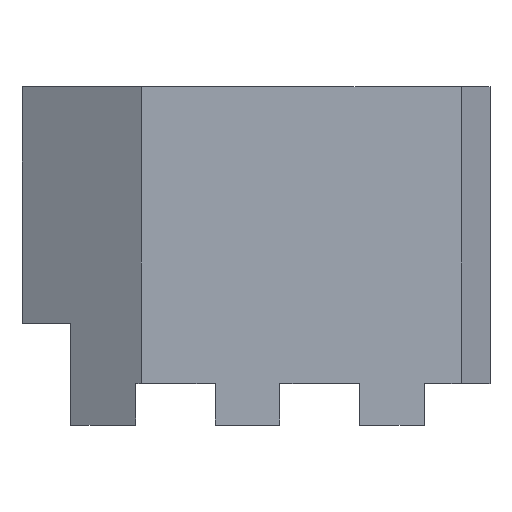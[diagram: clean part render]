
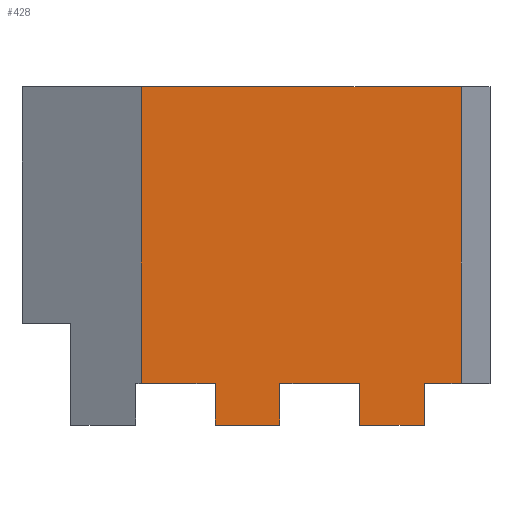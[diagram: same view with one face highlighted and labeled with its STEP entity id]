
A CAD part, top view. The second image highlights one B-rep face of the part: STEP entity #428.
In plain terms, the highlighted planar face has unit normal (0, 0, 1).
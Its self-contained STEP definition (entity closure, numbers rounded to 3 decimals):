
#14 = DIRECTION ( 'NONE',  ( 0., 1., 0. ) ) ;
#28 = EDGE_CURVE ( 'NONE', #400, #725, #74, .T. ) ;
#31 = VERTEX_POINT ( 'NONE', #585 ) ;
#46 = ORIENTED_EDGE ( 'NONE', *, *, #477, .T. ) ;
#49 = CARTESIAN_POINT ( 'NONE',  ( 5., 4.2, 9. ) ) ;
#55 = CARTESIAN_POINT ( 'NONE',  ( 18.9, 4.2, 9. ) ) ;
#61 = VECTOR ( 'NONE', #14, 1000. ) ;
#67 = EDGE_CURVE ( 'NONE', #314, #399, #572, .T. ) ;
#70 = DIRECTION ( 'NONE',  ( 0., 1., 0. ) ) ;
#74 = LINE ( 'NONE', #417, #264 ) ;
#86 = VERTEX_POINT ( 'NONE', #208 ) ;
#87 = VECTOR ( 'NONE', #589, 1000. ) ;
#91 = CARTESIAN_POINT ( 'NONE',  ( 0., 0., 9. ) ) ;
#97 = ORIENTED_EDGE ( 'NONE', *, *, #369, .F. ) ;
#100 = ORIENTED_EDGE ( 'NONE', *, *, #561, .F. ) ;
#101 = CARTESIAN_POINT ( 'NONE',  ( 33.4, 4.2, 9. ) ) ;
#103 = CARTESIAN_POINT ( 'NONE',  ( 18.9, 0., 9. ) ) ;
#108 = ORIENTED_EDGE ( 'NONE', *, *, #657, .F. ) ;
#109 = LINE ( 'NONE', #55, #514 ) ;
#126 = FACE_OUTER_BOUND ( 'NONE', #243, .T. ) ;
#132 = VERTEX_POINT ( 'NONE', #593 ) ;
#133 = CARTESIAN_POINT ( 'NONE',  ( 4.4, 4.2, 9. ) ) ;
#134 = ORIENTED_EDGE ( 'NONE', *, *, #280, .F. ) ;
#135 = ORIENTED_EDGE ( 'NONE', *, *, #28, .T. ) ;
#140 = ORIENTED_EDGE ( 'NONE', *, *, #415, .F. ) ;
#146 = VECTOR ( 'NONE', #370, 1000. ) ;
#174 = CARTESIAN_POINT ( 'NONE',  ( 37.113, 4.2, 9. ) ) ;
#185 = CARTESIAN_POINT ( 'NONE',  ( 5., 34., 9. ) ) ;
#208 = CARTESIAN_POINT ( 'NONE',  ( 33.4, 0., 9. ) ) ;
#215 = CARTESIAN_POINT ( 'NONE',  ( 26.9, 4.2, 9. ) ) ;
#226 = LINE ( 'NONE', #460, #61 ) ;
#230 = LINE ( 'NONE', #667, #373 ) ;
#236 = DIRECTION ( 'NONE',  ( -1., 0., 0. ) ) ;
#243 = EDGE_LOOP ( 'NONE', ( #100, #713, #472, #135, #140, #473, #46, #696, #108, #97, #411, #134 ) ) ;
#245 = VERTEX_POINT ( 'NONE', #670 ) ;
#264 = VECTOR ( 'NONE', #357, 1000. ) ;
#278 = DIRECTION ( 'NONE',  ( 0., -1., 0. ) ) ;
#280 = EDGE_CURVE ( 'NONE', #31, #86, #498, .T. ) ;
#288 = DIRECTION ( 'NONE',  ( 0., 0., -1. ) ) ;
#314 = VERTEX_POINT ( 'NONE', #174 ) ;
#336 = LINE ( 'NONE', #103, #541 ) ;
#339 = EDGE_CURVE ( 'NONE', #399, #400, #641, .T. ) ;
#353 = PLANE ( 'NONE',  #575 ) ;
#355 = VERTEX_POINT ( 'NONE', #576 ) ;
#357 = DIRECTION ( 'NONE',  ( 0., -1., 0. ) ) ;
#363 = DIRECTION ( 'NONE',  ( -1., 0., 0. ) ) ;
#369 = EDGE_CURVE ( 'NONE', #700, #639, #226, .T. ) ;
#370 = DIRECTION ( 'NONE',  ( 1., 0., 0. ) ) ;
#373 = VECTOR ( 'NONE', #499, 1000. ) ;
#376 = DIRECTION ( 'NONE',  ( 1., 0., 0. ) ) ;
#399 = VERTEX_POINT ( 'NONE', #454 ) ;
#400 = VERTEX_POINT ( 'NONE', #185 ) ;
#404 = CARTESIAN_POINT ( 'NONE',  ( 26.9, 0., 9. ) ) ;
#407 = DIRECTION ( 'NONE',  ( -1., 0., 0. ) ) ;
#411 = ORIENTED_EDGE ( 'NONE', *, *, #583, .T. ) ;
#415 = EDGE_CURVE ( 'NONE', #661, #725, #471, .T. ) ;
#417 = CARTESIAN_POINT ( 'NONE',  ( 5., 0., 9. ) ) ;
#423 = VECTOR ( 'NONE', #376, 1000. ) ;
#426 = LINE ( 'NONE', #91, #423 ) ;
#428 = ADVANCED_FACE ( 'NONE', ( #126 ), #353, .F. ) ;
#452 = CARTESIAN_POINT ( 'NONE',  ( 33.4, 0., 9. ) ) ;
#454 = CARTESIAN_POINT ( 'NONE',  ( 37.113, 34., 9. ) ) ;
#460 = CARTESIAN_POINT ( 'NONE',  ( 26.9, 0., 9. ) ) ;
#471 = LINE ( 'NONE', #133, #502 ) ;
#472 = ORIENTED_EDGE ( 'NONE', *, *, #339, .T. ) ;
#473 = ORIENTED_EDGE ( 'NONE', *, *, #608, .F. ) ;
#474 = LINE ( 'NONE', #101, #727 ) ;
#477 = EDGE_CURVE ( 'NONE', #355, #245, #426, .T. ) ;
#497 = CARTESIAN_POINT ( 'NONE',  ( 12.4, 4.2, 9. ) ) ;
#498 = LINE ( 'NONE', #452, #672 ) ;
#499 = DIRECTION ( 'NONE',  ( 0., 1., 0. ) ) ;
#502 = VECTOR ( 'NONE', #407, 1000. ) ;
#505 = DIRECTION ( 'NONE',  ( 0., -1., 0. ) ) ;
#514 = VECTOR ( 'NONE', #562, 1000. ) ;
#518 = CARTESIAN_POINT ( 'NONE',  ( 0., 34., 9. ) ) ;
#541 = VECTOR ( 'NONE', #278, 1000. ) ;
#546 = LINE ( 'NONE', #710, #146 ) ;
#561 = EDGE_CURVE ( 'NONE', #314, #31, #474, .T. ) ;
#562 = DIRECTION ( 'NONE',  ( -1., 0., 0. ) ) ;
#572 = LINE ( 'NONE', #646, #573 ) ;
#573 = VECTOR ( 'NONE', #70, 1000. ) ;
#575 = AXIS2_PLACEMENT_3D ( 'NONE', #699, #288, #236 ) ;
#576 = CARTESIAN_POINT ( 'NONE',  ( 12.4, 0., 9. ) ) ;
#583 = EDGE_CURVE ( 'NONE', #700, #86, #546, .T. ) ;
#585 = CARTESIAN_POINT ( 'NONE',  ( 33.4, 4.2, 9. ) ) ;
#589 = DIRECTION ( 'NONE',  ( -1., 0., 0. ) ) ;
#593 = CARTESIAN_POINT ( 'NONE',  ( 18.9, 4.2, 9. ) ) ;
#608 = EDGE_CURVE ( 'NONE', #355, #661, #230, .T. ) ;
#639 = VERTEX_POINT ( 'NONE', #215 ) ;
#641 = LINE ( 'NONE', #518, #87 ) ;
#646 = CARTESIAN_POINT ( 'NONE',  ( 37.113, 0., 9. ) ) ;
#657 = EDGE_CURVE ( 'NONE', #639, #132, #109, .T. ) ;
#661 = VERTEX_POINT ( 'NONE', #497 ) ;
#667 = CARTESIAN_POINT ( 'NONE',  ( 12.4, 0., 9. ) ) ;
#670 = CARTESIAN_POINT ( 'NONE',  ( 18.9, 0., 9. ) ) ;
#672 = VECTOR ( 'NONE', #505, 1000. ) ;
#696 = ORIENTED_EDGE ( 'NONE', *, *, #716, .F. ) ;
#699 = CARTESIAN_POINT ( 'NONE',  ( 0., 0., 9. ) ) ;
#700 = VERTEX_POINT ( 'NONE', #404 ) ;
#710 = CARTESIAN_POINT ( 'NONE',  ( 0., 0., 9. ) ) ;
#713 = ORIENTED_EDGE ( 'NONE', *, *, #67, .T. ) ;
#716 = EDGE_CURVE ( 'NONE', #132, #245, #336, .T. ) ;
#725 = VERTEX_POINT ( 'NONE', #49 ) ;
#727 = VECTOR ( 'NONE', #363, 1000. ) ;
